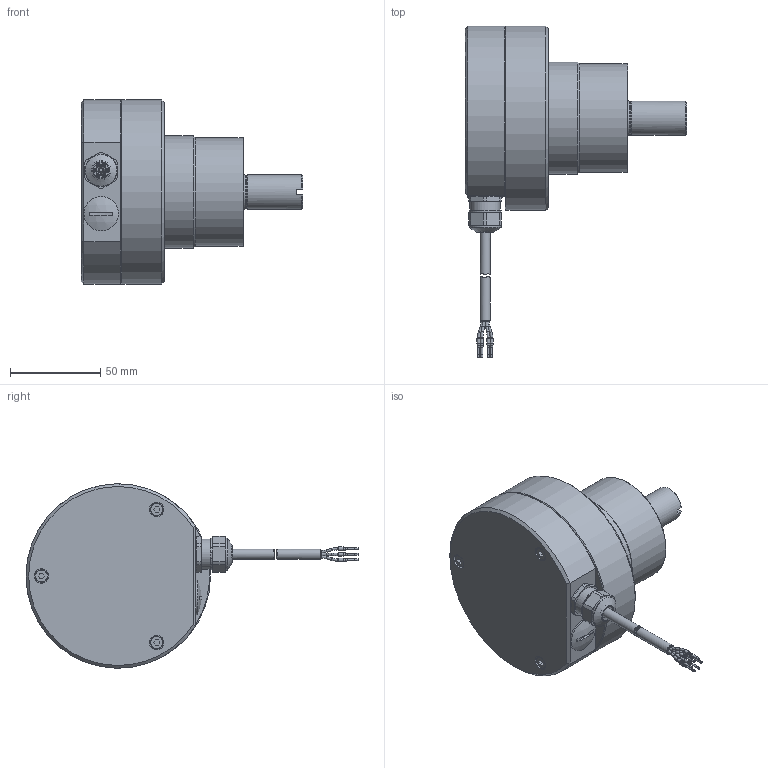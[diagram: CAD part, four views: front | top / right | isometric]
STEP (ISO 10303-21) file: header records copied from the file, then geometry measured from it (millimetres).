
FILE_DESCRIPTION(/* description */ (''),/* implementation_level */ '2;1');
FILE_NAME(/* name */ 'RTA602-RTC600_3D CAD_20260219.STP',/* time_stamp */ '2026-02-19T13:30:46+01:00',/* author */ ('dsp'),/* organization */ (''),/* preprocessor_version */ 'ST-DEVELOPER v20',/* originating_system */ 'Autodesk Inventor 2023',/* authorisation */ '');
FILE_SCHEMA (('AUTOMOTIVE_DESIGN { 1 0 10303 214 3 1 1 }'));
Length unit declared in the file: millimetre
Products named in the file (1): RTA602-RTC600
Bounding box: 122.5 x 183.59 x 102 mm (x, y, z)
Volume: 508995.3 mm3; surface area: 47416.8 mm2
Topology: 2 solids, 11 shells, 331 faces, 737 edges, 475 vertices
Faces by surface type: plane 133, cylinder 128, cone 45, torus 24, sphere 1
Full cylindrical faces by diameter (mm): 0.8 x12, 1.1 x6, 1.4 x24, 1.5 x6, 1.9 x6, 2.5 x1, 4.773 x3, 5.6 x2, 6 x4, 7 x3, 8 x3, 8.5 x1, 10.2 x1, 10.7 x1, 11.5 x1, 13.5 x1, 16.79 x1, 17.8 x2, 18.6 x1, 19 x2, 22 x1, 23 x1, 60 x1, 62 x1, 102 x1
Entity records: 18558 total; most frequent: CARTESIAN_POINT 10597, DIRECTION 1690, ORIENTED_EDGE 1464, EDGE_CURVE 732, AXIS2_PLACEMENT_3D 702, VERTEX_POINT 474, EDGE_LOOP 408, FACE_OUTER_BOUND 331
